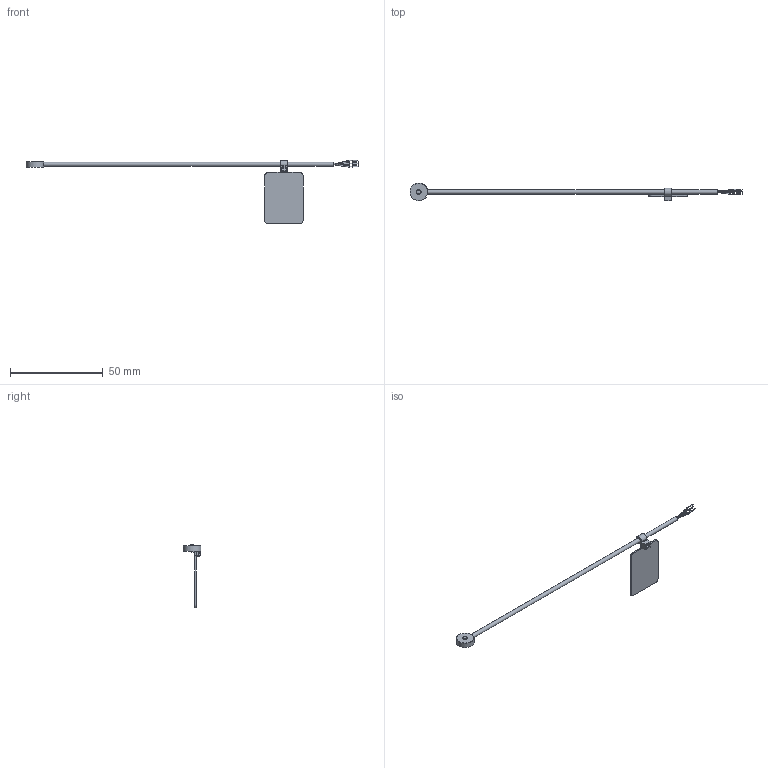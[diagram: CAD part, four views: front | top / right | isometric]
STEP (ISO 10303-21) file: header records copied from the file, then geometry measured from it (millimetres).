
FILE_DESCRIPTION (( 'STEP AP203' ), '1' );
FILE_NAME ('Part6^82884.STEP', '2020-09-10T16:45:40', ( '' ), ( '' ), 'SwSTEP 2.0', 'SolidWorks 2019', '' );
FILE_SCHEMA (( 'CONFIG_CONTROL_DESIGN' ));
Length unit declared in the file: millimetre
Products named in the file (1): Part6^82884
Bounding box: 178.93 x 9.55 x 34.35 mm (x, y, z)
Volume: 1334.4 mm3; surface area: 2769.1 mm2
Topology: 1 solids, 2 shells, 210 faces, 539 edges, 356 vertices
Faces by surface type: bspline 96, plane 74, cylinder 36, torus 3, sphere 1
Full cylindrical faces by diameter (mm): 0.254 x4, 0.279 x2, 0.406 x8, 1.626 x1, 2.2 x2, 2.261 x1, 9.525 x1
Entity records: 12690 total; most frequent: CARTESIAN_POINT 8541, ORIENTED_EDGE 986, DIRECTION 503, EDGE_CURVE 493, VERTEX_POINT 340, B_SPLINE_CURVE_WITH_KNOTS 288, EDGE_LOOP 261, FACE_OUTER_BOUND 235
